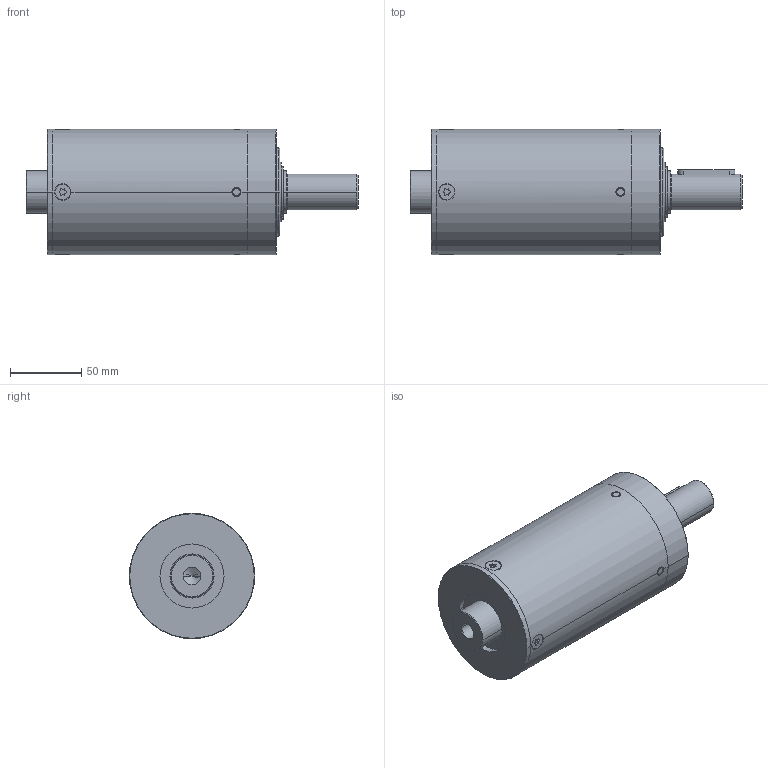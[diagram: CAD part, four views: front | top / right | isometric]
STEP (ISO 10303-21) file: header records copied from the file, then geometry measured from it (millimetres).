
FILE_DESCRIPTION((''),'2;1');
FILE_NAME('IMS88_PRO_MAX_3_STAGE_ASM','2023-07-27T09:47:40',('mhummel'),(''),'CREO PARAMETRIC BY PTC INC, 2020184','CREO PARAMETRIC BY PTC INC, 2020184','');
FILE_SCHEMA(('AUTOMOTIVE_DESIGN { 1 0 10303 214 1 1 1 1 }'));
Length unit declared in the file: millimetre
Products named in the file (16): IMS88_PRO_MAX_BEARIG_FLANGE; IMS88_PRO_MAX_BALL_BEARING; IMS88_PRO_MAX_RING_GEAR_3; IMS88_PRO_MAX_CYLINDER_PIN; IMS88_PRO_MAX_RING_GEAR_3_STAGE_ASM; IMS88_PRO_MAX_MOTOR_FLANGE; IMS88_PRO_MAX_SHAFT_RAW_AF0; IMS88_PRO_MAX_SHAFT_ASM; IMS88_PRO_MAX_SHIM_RING; IMS88_PRO_MAX_RETAINING_RING_A; IMS88_PRO_MAX_FEATHER_KEY; IMS88_PRO_MAX_THRUST_WASHER; IMS88_PRO_MAX_SCREW; IMS88_PRO_MAX_MO_PINION_LONG; IMS88_PRO_MAX_MO_PINION_SHORT; IMS88_PRO_MAX_3_STAGE_ASM
Assembly tree (22 placements, depth 3):
  IMS88_PRO_MAX_3_STAGE_ASM
    IMS88_PRO_MAX_BEARIG_FLANGE
    IMS88_PRO_MAX_BALL_BEARING  x2
    IMS88_PRO_MAX_RING_GEAR_3_STAGE_ASM
      IMS88_PRO_MAX_RING_GEAR_3
      IMS88_PRO_MAX_CYLINDER_PIN  x4
    IMS88_PRO_MAX_MOTOR_FLANGE
    IMS88_PRO_MAX_SHAFT_ASM
      IMS88_PRO_MAX_SHAFT_RAW_AF0
    IMS88_PRO_MAX_SHIM_RING
    IMS88_PRO_MAX_RETAINING_RING_A
    IMS88_PRO_MAX_FEATHER_KEY
    IMS88_PRO_MAX_THRUST_WASHER
    IMS88_PRO_MAX_SCREW  x4
    IMS88_PRO_MAX_MO_PINION_LONG
    IMS88_PRO_MAX_MO_PINION_SHORT
Bounding box: 233.25 x 88 x 88 mm (x, y, z)
Volume: 671836.7 mm3; surface area: 192940.3 mm2
Topology: 24 solids, 26 shells, 492 faces, 1105 edges, 660 vertices
Faces by surface type: cylinder 208, plane 120, cone 88, torus 60, revolution 16
Entity records: 13695 total; most frequent: CARTESIAN_POINT 2388, DIRECTION 1781, ORIENTED_EDGE 1410, PRESENTATION_STYLE_ASSIGNMENT 830, STYLED_ITEM 826, AXIS2_PLACEMENT_3D 745, CURVE_STYLE 709, EDGE_CURVE 705
